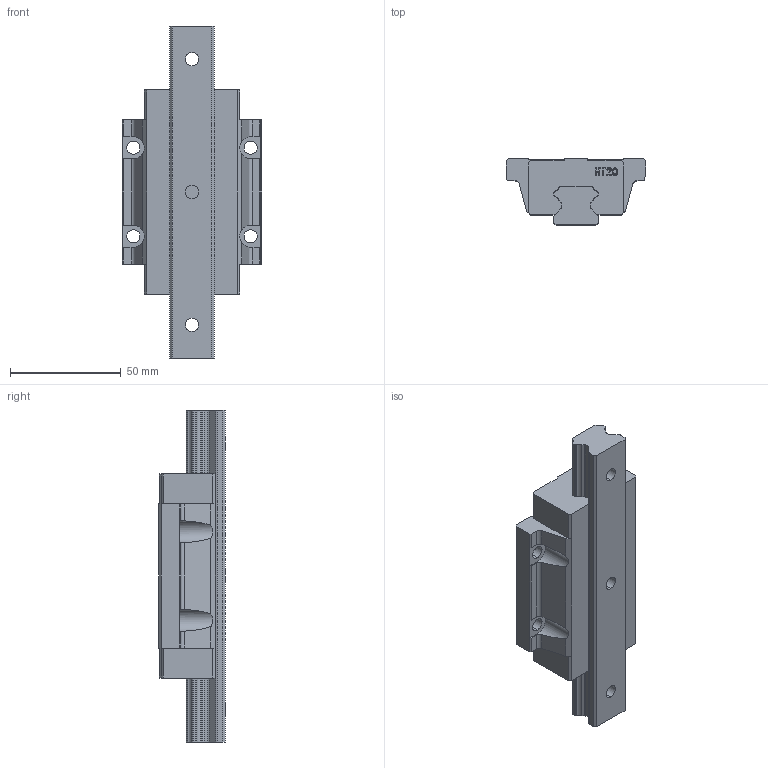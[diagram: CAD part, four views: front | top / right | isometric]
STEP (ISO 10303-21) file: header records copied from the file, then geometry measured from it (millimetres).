
FILE_DESCRIPTION (( 'STEP AP214' ), '1' );
FILE_NAME ('7.1009 Lineaarikelkka HTW20HA.STEP', '2026-03-11T11:10:46', ( '' ), ( '' ), 'SwSTEP 2.0', 'SolidWorks 2025', '' );
FILE_SCHEMA (( 'AUTOMOTIVE_DESIGN' ));
Length unit declared in the file: millimetre
Products named in the file (3): HTW20H; 7.1009 Lineaarikelkka HTW20HA; HTR20
Assembly tree (2 placements, depth 2):
  7.1009 Lineaarikelkka HTW20HA
    HTW20H
    HTR20
Bounding box: 63 x 30 x 150 mm (x, y, z)
Volume: 137239 mm3; surface area: 33450.7 mm2
Topology: 2 solids, 2 shells, 761 faces, 2151 edges, 1432 vertices
Faces by surface type: plane 661, cylinder 76, bspline 24
Entity records: 34846 total; most frequent: CARTESIAN_POINT 6661, ORIENTED_EDGE 4302, DIRECTION 3715, EDGE_CURVE 2151, LINE 1935, VECTOR 1935, VERTEX_POINT 1432, AXIS2_PLACEMENT_3D 890
